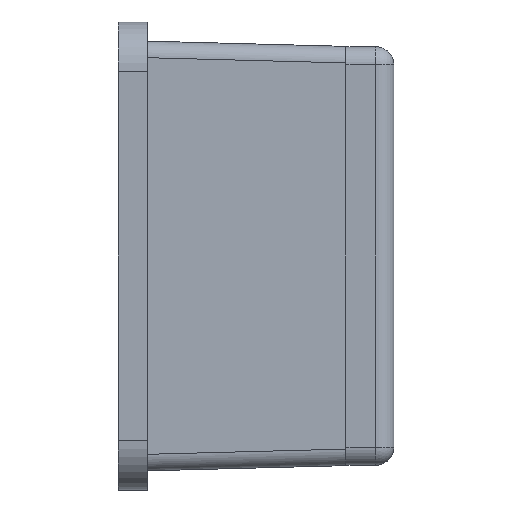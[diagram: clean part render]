
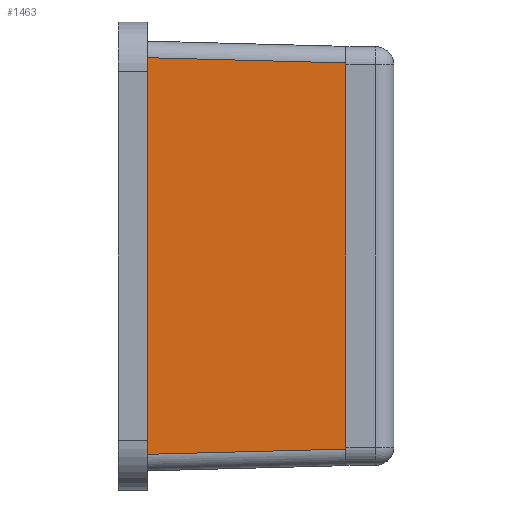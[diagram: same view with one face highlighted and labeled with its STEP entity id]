
A CAD part, left-side view. The second image highlights one B-rep face of the part: STEP entity #1463.
In plain terms, the highlighted planar face has unit normal (-1, -0.026, 0).
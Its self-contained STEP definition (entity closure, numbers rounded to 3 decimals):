
#108 = EDGE_CURVE ( 'NONE', #2527, #2028, #2212, .T. ) ;
#202 = CARTESIAN_POINT ( 'NONE',  ( -17.686, -12., 11.651 ) ) ;
#270 = CARTESIAN_POINT ( 'NONE',  ( -18., 0., -11.965 ) ) ;
#459 = VECTOR ( 'NONE', #1345, 1000. ) ;
#521 = ORIENTED_EDGE ( 'NONE', *, *, #797, .T. ) ;
#541 = EDGE_CURVE ( 'NONE', #816, #2536, #2194, .T. ) ;
#597 = LINE ( 'NONE', #1450, #2002 ) ;
#617 = DIRECTION ( 'NONE',  ( 0., 0., 1. ) ) ;
#634 = CARTESIAN_POINT ( 'NONE',  ( -18., 0., -12.965 ) ) ;
#679 = DIRECTION ( 'NONE',  ( 0., 0., 1. ) ) ;
#719 = FACE_OUTER_BOUND ( 'NONE', #1432, .T. ) ;
#797 = EDGE_CURVE ( 'NONE', #2536, #2028, #1006, .T. ) ;
#804 = AXIS2_PLACEMENT_3D ( 'NONE', #1498, #1439, #1437 ) ;
#806 = EDGE_CURVE ( 'NONE', #2527, #816, #597, .T. ) ;
#816 = VERTEX_POINT ( 'NONE', #1286 ) ;
#1006 = LINE ( 'NONE', #1470, #459 ) ;
#1048 = VECTOR ( 'NONE', #617, 1000. ) ;
#1162 = VECTOR ( 'NONE', #679, 1000. ) ;
#1286 = CARTESIAN_POINT ( 'NONE',  ( -17.686, -12., -11.651 ) ) ;
#1345 = DIRECTION ( 'NONE',  ( -0.026, 0.999, 0.026 ) ) ;
#1349 = DIRECTION ( 'NONE',  ( 0.026, -0.999, 0.026 ) ) ;
#1432 = EDGE_LOOP ( 'NONE', ( #1480, #521, #2334, #2235 ) ) ;
#1437 = DIRECTION ( 'NONE',  ( 0.026, -1., 0. ) ) ;
#1439 = DIRECTION ( 'NONE',  ( -1., -0.026, 0. ) ) ;
#1448 = PLANE ( 'NONE',  #804 ) ;
#1450 = CARTESIAN_POINT ( 'NONE',  ( -18.001, 0.026, -11.966 ) ) ;
#1463 = ADVANCED_FACE ( 'NONE', ( #719 ), #1448, .T. ) ;
#1470 = CARTESIAN_POINT ( 'NONE',  ( -17.983, -0.652, 11.948 ) ) ;
#1480 = ORIENTED_EDGE ( 'NONE', *, *, #541, .T. ) ;
#1498 = CARTESIAN_POINT ( 'NONE',  ( -18., 0., -12.965 ) ) ;
#2002 = VECTOR ( 'NONE', #1349, 1000. ) ;
#2028 = VERTEX_POINT ( 'NONE', #2142 ) ;
#2142 = CARTESIAN_POINT ( 'NONE',  ( -18., 0., 11.965 ) ) ;
#2194 = LINE ( 'NONE', #2553, #1162 ) ;
#2212 = LINE ( 'NONE', #634, #1048 ) ;
#2235 = ORIENTED_EDGE ( 'NONE', *, *, #806, .T. ) ;
#2334 = ORIENTED_EDGE ( 'NONE', *, *, #108, .F. ) ;
#2527 = VERTEX_POINT ( 'NONE', #270 ) ;
#2536 = VERTEX_POINT ( 'NONE', #202 ) ;
#2553 = CARTESIAN_POINT ( 'NONE',  ( -17.686, -12., 0. ) ) ;
